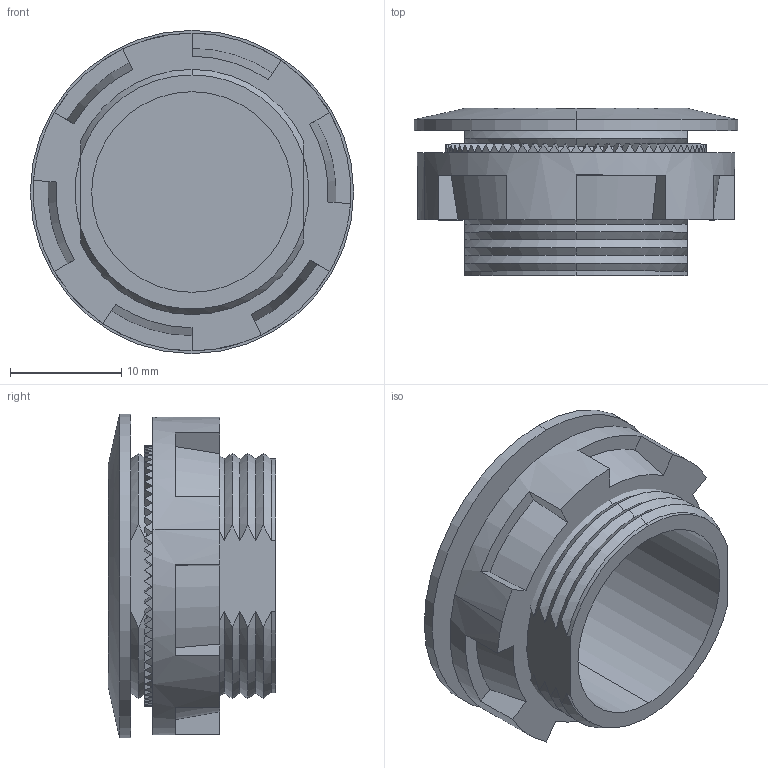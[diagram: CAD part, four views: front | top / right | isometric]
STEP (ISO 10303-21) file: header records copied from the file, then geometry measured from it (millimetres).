
FILE_DESCRIPTION (( 'STEP AP214' ), '1' );
FILE_NAME ('3D 沓麧錪 MTB2-F09.STEP', '2017-04-20T06:57:42', ( 'adm' ), ( 'MICROSOFT' ), 'SwSTEP 2.0', 'SolidWorks 2011', '' );
FILE_SCHEMA (( 'AUTOMOTIVE_DESIGN' ));
Length unit declared in the file: millimetre
Products named in the file (3): ч蜱齁罻 MTB2-F09; 3D 沓麧錪 MTB2-F09; 扻錪犩
Assembly tree (2 placements, depth 2):
  3D 沓麧錪 MTB2-F09
    ч蜱齁罻 MTB2-F09
    扻錪犩
Bounding box: 29 x 15 x 29 mm (x, y, z)
Volume: 3889.3 mm3; surface area: 4854.3 mm2
Topology: 2 solids, 2 shells, 322 faces, 946 edges, 628 vertices
Faces by surface type: plane 173, bspline 74, cone 64, cylinder 11
Entity records: 16240 total; most frequent: CARTESIAN_POINT 8965, ORIENTED_EDGE 1888, DIRECTION 963, EDGE_CURVE 944, VERTEX_POINT 628, B_SPLINE_CURVE_WITH_KNOTS 455, AXIS2_PLACEMENT_3D 370, EDGE_LOOP 326
